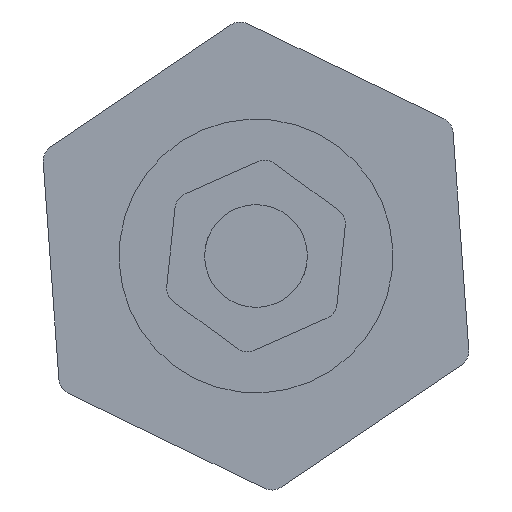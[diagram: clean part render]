
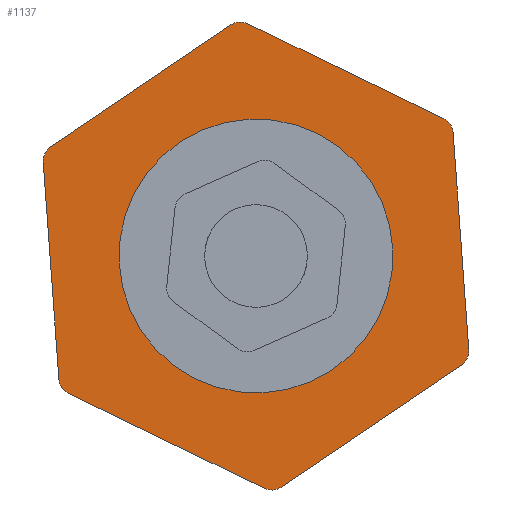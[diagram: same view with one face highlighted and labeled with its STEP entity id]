
A CAD part, front view. The second image highlights one B-rep face of the part: STEP entity #1137.
In plain terms, the highlighted planar face has unit normal (0, -1, 0) as drawn and (0, 0, 1) by its records, which use the part's own axes.
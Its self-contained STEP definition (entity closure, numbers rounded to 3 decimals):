
#11 = CARTESIAN_POINT ( 'NONE',  ( 7.101, -11.899, 6. ) ) ;
#13 = ORIENTED_EDGE ( 'NONE', *, *, #1356, .T. ) ;
#17 = CARTESIAN_POINT ( 'NONE',  ( -7.382, 11.395, 6. ) ) ;
#23 = ORIENTED_EDGE ( 'NONE', *, *, #3435, .T. ) ;
#73 = VERTEX_POINT ( 'NONE', #2759 ) ;
#85 = PLANE ( 'NONE',  #1915 ) ;
#99 = FACE_BOUND ( 'NONE', #1768, .T. ) ;
#119 = AXIS2_PLACEMENT_3D ( 'NONE', #2060, #2042, #890 ) ;
#201 = EDGE_CURVE ( 'NONE', #1653, #637, #3359, .T. ) ;
#220 = CIRCLE ( 'NONE', #1335, 1. ) ;
#224 = DIRECTION ( 'NONE',  ( 1., 0., 0. ) ) ;
#241 = DIRECTION ( 'NONE',  ( 0., 0., 1. ) ) ;
#247 = DIRECTION ( 'NONE',  ( 1., 0.014, 0. ) ) ;
#275 = VERTEX_POINT ( 'NONE', #1890 ) ;
#279 = DIRECTION ( 'NONE',  ( 0., 0., 1. ) ) ;
#294 = DIRECTION ( 'NONE',  ( 1., 0., 0. ) ) ;
#341 = FACE_OUTER_BOUND ( 'NONE', #936, .T. ) ;
#360 = CARTESIAN_POINT ( 'NONE',  ( 6.754, 12.099, 6. ) ) ;
#377 = DIRECTION ( 'NONE',  ( 0., 0., 1. ) ) ;
#397 = EDGE_CURVE ( 'NONE', #1507, #2904, #1933, .T. ) ;
#400 = CIRCLE ( 'NONE', #801, 7. ) ;
#412 = ORIENTED_EDGE ( 'NONE', *, *, #201, .T. ) ;
#449 = VERTEX_POINT ( 'NONE', #1056 ) ;
#455 = VECTOR ( 'NONE', #247, 1000. ) ;
#463 = ORIENTED_EDGE ( 'NONE', *, *, #2475, .T. ) ;
#471 = ORIENTED_EDGE ( 'NONE', *, *, #2267, .T. ) ;
#492 = CARTESIAN_POINT ( 'NONE',  ( 0., 0., 6. ) ) ;
#533 = VERTEX_POINT ( 'NONE', #2206 ) ;
#538 = DIRECTION ( 'NONE',  ( -0.512, 0.859, 0. ) ) ;
#568 = VECTOR ( 'NONE', #2041, 1000. ) ;
#625 = CARTESIAN_POINT ( 'NONE',  ( -7.101, 11.899, 6. ) ) ;
#637 = VERTEX_POINT ( 'NONE', #17 ) ;
#686 = EDGE_CURVE ( 'NONE', #1856, #73, #1490, .T. ) ;
#750 = CARTESIAN_POINT ( 'NONE',  ( -6.523, 11.907, 6. ) ) ;
#754 = CARTESIAN_POINT ( 'NONE',  ( 13.559, 0.696, 6. ) ) ;
#755 = AXIS2_PLACEMENT_3D ( 'NONE', #2496, #1630, #294 ) ;
#785 = DIRECTION ( 'NONE',  ( 1., 0., 0. ) ) ;
#801 = AXIS2_PLACEMENT_3D ( 'NONE', #1166, #1677, #1938 ) ;
#829 = DIRECTION ( 'NONE',  ( 1., 0., 0. ) ) ;
#890 = DIRECTION ( 'NONE',  ( 1., 0., 0. ) ) ;
#931 = EDGE_CURVE ( 'NONE', #3068, #3531, #400, .T. ) ;
#936 = EDGE_LOOP ( 'NONE', ( #3055, #1447, #13, #2469, #1717, #412, #463, #23, #471, #1421, #2309, #2738, #2272 ) ) ;
#969 = EDGE_CURVE ( 'NONE', #533, #3371, #2039, .T. ) ;
#1010 = DIRECTION ( 'NONE',  ( 1., 0., 0. ) ) ;
#1056 = CARTESIAN_POINT ( 'NONE',  ( -6.177, -12.09, 6. ) ) ;
#1075 = CARTESIAN_POINT ( 'NONE',  ( -7., 0., 6. ) ) ;
#1137 = ADVANCED_FACE ( 'NONE', ( #341, #99 ), #85, .T. ) ;
#1166 = CARTESIAN_POINT ( 'NONE',  ( 0., 0., 6. ) ) ;
#1221 = CIRCLE ( 'NONE', #2887, 1. ) ;
#1241 = VECTOR ( 'NONE', #3171, 1000. ) ;
#1264 = LINE ( 'NONE', #625, #568 ) ;
#1273 = VERTEX_POINT ( 'NONE', #3203 ) ;
#1333 = EDGE_CURVE ( 'NONE', #275, #533, #3572, .T. ) ;
#1335 = AXIS2_PLACEMENT_3D ( 'NONE', #2746, #241, #785 ) ;
#1356 = EDGE_CURVE ( 'NONE', #3371, #1507, #2217, .T. ) ;
#1421 = ORIENTED_EDGE ( 'NONE', *, *, #686, .T. ) ;
#1422 = CARTESIAN_POINT ( 'NONE',  ( 12.7, 0.183, 6. ) ) ;
#1447 = ORIENTED_EDGE ( 'NONE', *, *, #969, .T. ) ;
#1490 = LINE ( 'NONE', #1813, #1241 ) ;
#1507 = VERTEX_POINT ( 'NONE', #2291 ) ;
#1546 = CARTESIAN_POINT ( 'NONE',  ( 6.177, 12.09, 6. ) ) ;
#1558 = CIRCLE ( 'NONE', #1860, 1. ) ;
#1630 = DIRECTION ( 'NONE',  ( 0., 0., 1. ) ) ;
#1633 = CARTESIAN_POINT ( 'NONE',  ( -13.7, -0.183, 6. ) ) ;
#1640 = LINE ( 'NONE', #2734, #455 ) ;
#1652 = VERTEX_POINT ( 'NONE', #3228 ) ;
#1653 = VERTEX_POINT ( 'NONE', #750 ) ;
#1677 = DIRECTION ( 'NONE',  ( 0., 0., 1. ) ) ;
#1688 = VECTOR ( 'NONE', #1932, 1000. ) ;
#1717 = ORIENTED_EDGE ( 'NONE', *, *, #3500, .T. ) ;
#1740 = EDGE_CURVE ( 'NONE', #73, #449, #1922, .T. ) ;
#1768 = EDGE_LOOP ( 'NONE', ( #3162, #2073 ) ) ;
#1813 = CARTESIAN_POINT ( 'NONE',  ( -13.855, -0.2, 6. ) ) ;
#1829 = EDGE_CURVE ( 'NONE', #1273, #275, #220, .T. ) ;
#1856 = VERTEX_POINT ( 'NONE', #2704 ) ;
#1860 = AXIS2_PLACEMENT_3D ( 'NONE', #2786, #279, #829 ) ;
#1888 = CARTESIAN_POINT ( 'NONE',  ( -6.192, -11.09, 6. ) ) ;
#1890 = CARTESIAN_POINT ( 'NONE',  ( 7.382, -11.395, 6. ) ) ;
#1915 = AXIS2_PLACEMENT_3D ( 'NONE', #2329, #377, #3424 ) ;
#1922 = CIRCLE ( 'NONE', #3115, 1. ) ;
#1932 = DIRECTION ( 'NONE',  ( 0.487, 0.873, 0. ) ) ;
#1933 = CIRCLE ( 'NONE', #119, 1. ) ;
#1938 = DIRECTION ( 'NONE',  ( 1., 0., 0. ) ) ;
#1976 = AXIS2_PLACEMENT_3D ( 'NONE', #492, #2175, #1010 ) ;
#2010 = DIRECTION ( 'NONE',  ( -1., -0.014, 0. ) ) ;
#2039 = CIRCLE ( 'NONE', #3455, 1. ) ;
#2041 = DIRECTION ( 'NONE',  ( -0.487, -0.873, 0. ) ) ;
#2042 = DIRECTION ( 'NONE',  ( 0., 0., 1. ) ) ;
#2060 = CARTESIAN_POINT ( 'NONE',  ( 6.192, 11.09, 6. ) ) ;
#2073 = ORIENTED_EDGE ( 'NONE', *, *, #2115, .F. ) ;
#2115 = EDGE_CURVE ( 'NONE', #3531, #3068, #3288, .T. ) ;
#2175 = DIRECTION ( 'NONE',  ( 0., 0., 1. ) ) ;
#2195 = CARTESIAN_POINT ( 'NONE',  ( -12.7, -0.183, 6. ) ) ;
#2206 = CARTESIAN_POINT ( 'NONE',  ( 13.574, -0.304, 6. ) ) ;
#2217 = LINE ( 'NONE', #3021, #3237 ) ;
#2267 = EDGE_CURVE ( 'NONE', #2585, #1856, #1558, .T. ) ;
#2272 = ORIENTED_EDGE ( 'NONE', *, *, #1829, .T. ) ;
#2275 = DIRECTION ( 'NONE',  ( 0., 0., 1. ) ) ;
#2291 = CARTESIAN_POINT ( 'NONE',  ( 7.05, 11.603, 6. ) ) ;
#2309 = ORIENTED_EDGE ( 'NONE', *, *, #1740, .T. ) ;
#2329 = CARTESIAN_POINT ( 'NONE',  ( 0., 0., 6. ) ) ;
#2429 = DIRECTION ( 'NONE',  ( 0., 0., 1. ) ) ;
#2469 = ORIENTED_EDGE ( 'NONE', *, *, #397, .T. ) ;
#2475 = EDGE_CURVE ( 'NONE', #637, #1652, #1264, .T. ) ;
#2490 = VECTOR ( 'NONE', #2010, 1000. ) ;
#2496 = CARTESIAN_POINT ( 'NONE',  ( -6.509, 10.907, 6. ) ) ;
#2506 = DIRECTION ( 'NONE',  ( 1., 0., 0. ) ) ;
#2585 = VERTEX_POINT ( 'NONE', #1633 ) ;
#2704 = CARTESIAN_POINT ( 'NONE',  ( -13.559, -0.696, 6. ) ) ;
#2734 = CARTESIAN_POINT ( 'NONE',  ( -6.754, -12.099, 6. ) ) ;
#2738 = ORIENTED_EDGE ( 'NONE', *, *, #3447, .T. ) ;
#2746 = CARTESIAN_POINT ( 'NONE',  ( 6.509, -10.907, 6. ) ) ;
#2759 = CARTESIAN_POINT ( 'NONE',  ( -7.05, -11.603, 6. ) ) ;
#2786 = CARTESIAN_POINT ( 'NONE',  ( -12.7, -0.183, 6. ) ) ;
#2807 = LINE ( 'NONE', #360, #2490 ) ;
#2887 = AXIS2_PLACEMENT_3D ( 'NONE', #2195, #2429, #224 ) ;
#2904 = VERTEX_POINT ( 'NONE', #1546 ) ;
#3021 = CARTESIAN_POINT ( 'NONE',  ( 13.855, 0.2, 6. ) ) ;
#3031 = DIRECTION ( 'NONE',  ( 0., 0., 1. ) ) ;
#3055 = ORIENTED_EDGE ( 'NONE', *, *, #1333, .T. ) ;
#3068 = VERTEX_POINT ( 'NONE', #1075 ) ;
#3115 = AXIS2_PLACEMENT_3D ( 'NONE', #1888, #3031, #3325 ) ;
#3162 = ORIENTED_EDGE ( 'NONE', *, *, #931, .F. ) ;
#3171 = DIRECTION ( 'NONE',  ( 0.512, -0.859, 0. ) ) ;
#3203 = CARTESIAN_POINT ( 'NONE',  ( 6.523, -11.907, 6. ) ) ;
#3228 = CARTESIAN_POINT ( 'NONE',  ( -13.574, 0.304, 6. ) ) ;
#3237 = VECTOR ( 'NONE', #538, 1000. ) ;
#3288 = CIRCLE ( 'NONE', #1976, 7. ) ;
#3325 = DIRECTION ( 'NONE',  ( 1., 0., 0. ) ) ;
#3329 = CARTESIAN_POINT ( 'NONE',  ( 7., 0., 6. ) ) ;
#3359 = CIRCLE ( 'NONE', #755, 1. ) ;
#3371 = VERTEX_POINT ( 'NONE', #754 ) ;
#3424 = DIRECTION ( 'NONE',  ( 1., 0., 0. ) ) ;
#3435 = EDGE_CURVE ( 'NONE', #1652, #2585, #1221, .T. ) ;
#3447 = EDGE_CURVE ( 'NONE', #449, #1273, #1640, .T. ) ;
#3455 = AXIS2_PLACEMENT_3D ( 'NONE', #1422, #2275, #2506 ) ;
#3500 = EDGE_CURVE ( 'NONE', #2904, #1653, #2807, .T. ) ;
#3531 = VERTEX_POINT ( 'NONE', #3329 ) ;
#3572 = LINE ( 'NONE', #11, #1688 ) ;
